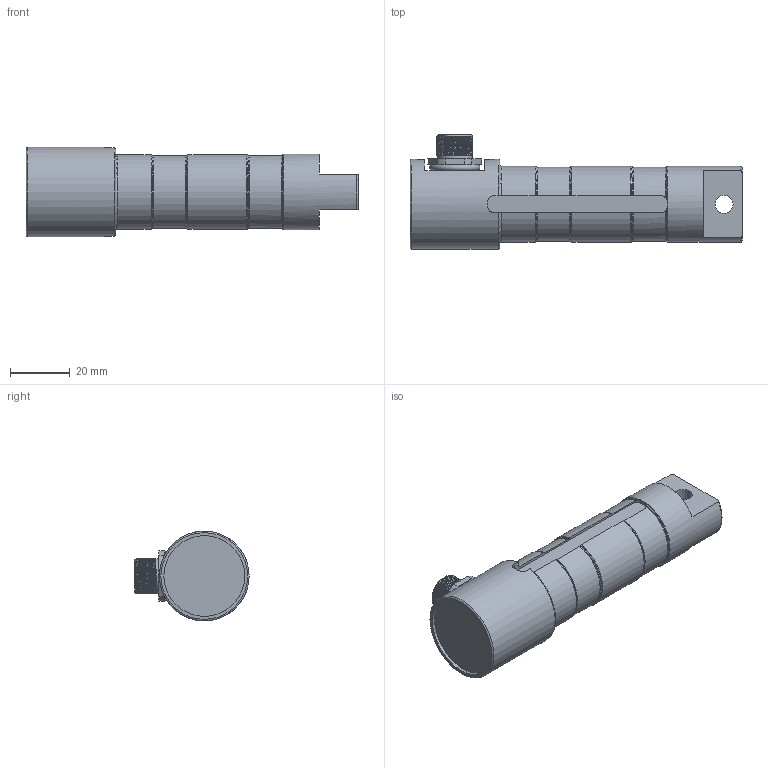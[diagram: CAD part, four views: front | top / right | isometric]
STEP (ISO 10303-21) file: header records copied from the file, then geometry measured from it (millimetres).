
FILE_DESCRIPTION(/* description */ ('Alibre Inc.'),/* implementation_level */ '2;1');
FILE_NAME(/* name */ 'export-524DBF9E-FD66-4416-8FC4-68A8D30D2A23',/* time_stamp */ '2019-01-22T15:03:46+01:00',/* author */ (''),/* organization */ (''),/* preprocessor_version */ 'ST-DEVELOPER v17',/* originating_system */ 'Alibre',/* authorisation */ '');
FILE_SCHEMA (('CONFIG_CONTROL_DESIGN'));
Length unit declared in the file: millimetre
Products named in the file (6): ID_1; ID_2; ID_3; ID_4
Bounding box: 111 x 38.2 x 30 mm (x, y, z)
Volume: 55432.3 mm3; surface area: 15051.2 mm2
Topology: 8 solids, 8 shells, 177 faces, 423 edges, 268 vertices
Faces by surface type: plane 63, cylinder 55, torus 23, bspline 23, cone 13
Full cylindrical faces by diameter (mm): 0.5 x8, 0.504 x1, 6 x1, 8 x2, 10 x3, 11.5 x1, 13 x1, 14.376 x1, 25.4 x1, 27 x1, 30 x1
Entity records: 15502 total; most frequent: CARTESIAN_POINT 11656, ORIENTED_EDGE 772, DIRECTION 457, EDGE_CURVE 381, VERTEX_POINT 257, FACE_BOUND 223, EDGE_LOOP 221, AXIS2_PLACEMENT_3D 207
